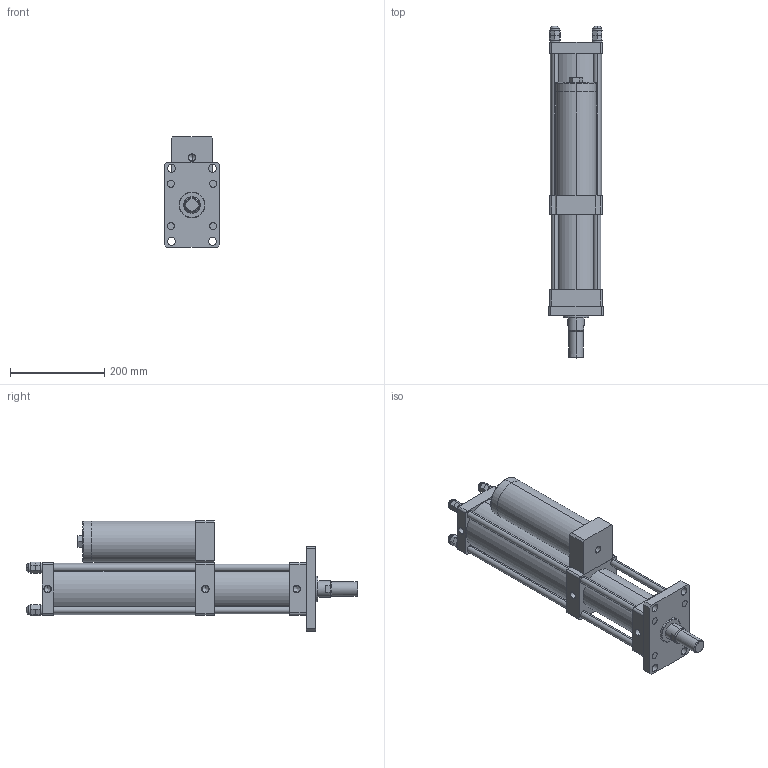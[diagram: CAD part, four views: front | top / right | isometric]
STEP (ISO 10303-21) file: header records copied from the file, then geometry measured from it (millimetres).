
FILE_DESCRIPTION (( 'STEP AP203' ), '1' );
FILE_NAME ('MPT-80-50-20-5T.STEP', '2016-03-11T01:26:55', ( 'WIN' ), ( '' ), 'SwSTEP 2.0', 'SolidWorks 2014', '' );
FILE_SCHEMA (( 'CONFIG_CONTROL_DESIGN' ));
Length unit declared in the file: millimetre
Products named in the file (1): MPT-80-50-20-5T
Bounding box: 118 x 705.13 x 235 mm (x, y, z)
Volume: 6256182.6 mm3; surface area: 690944.8 mm2
Topology: 20 solids, 20 shells, 390 faces, 954 edges, 554 vertices
Faces by surface type: plane 183, cylinder 84, torus 48, bspline 48, cone 27
Entity records: 12526 total; most frequent: CARTESIAN_POINT 3675, DIRECTION 1859, ORIENTED_EDGE 1776, EDGE_CURVE 888, AXIS2_PLACEMENT_3D 682, VERTEX_POINT 554, LINE 495, VECTOR 495
